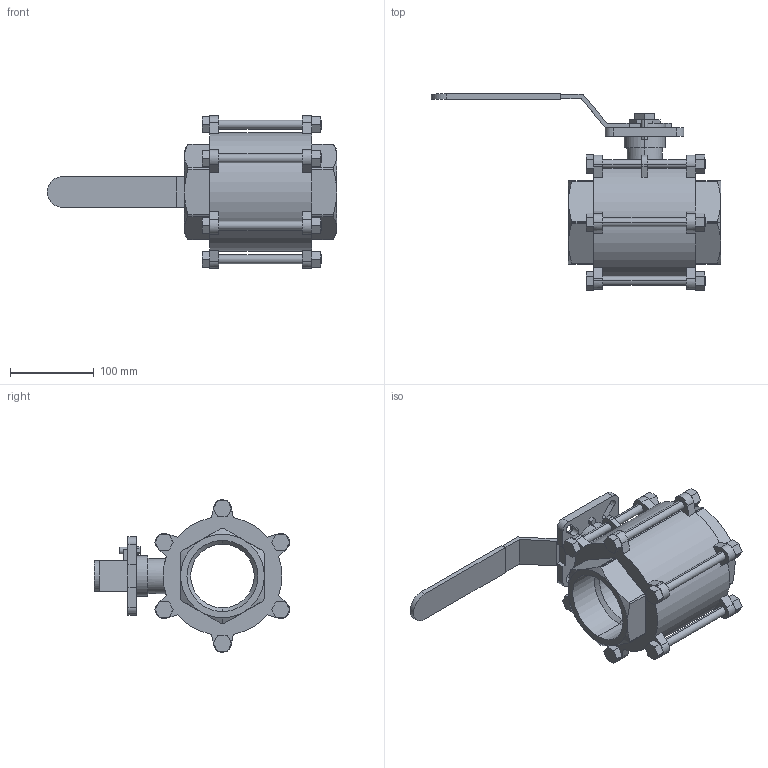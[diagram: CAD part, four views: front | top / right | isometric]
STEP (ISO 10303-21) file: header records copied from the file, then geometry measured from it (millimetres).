
FILE_DESCRIPTION (( 'STEP AP203' ), '1' );
FILE_NAME ('C3.622I080IFVPB0.STEP', '2018-10-12T14:37:07', ( '' ), ( '' ), 'SwSTEP 2.0', 'SolidWorks 2014', '' );
FILE_SCHEMA (( 'CONFIG_CONTROL_DESIGN' ));
Length unit declared in the file: millimetre
Products named in the file (1): C3.622I080IFVPB0
Bounding box: 346 x 234.18 x 182 mm (x, y, z)
Volume: 1879846.1 mm3; surface area: 232854.2 mm2
Topology: 1 solids, 1 shells, 413 faces, 1056 edges, 665 vertices
Faces by surface type: plane 300, cylinder 95, cone 18
Entity records: 12726 total; most frequent: CARTESIAN_POINT 2431, DIRECTION 2137, ORIENTED_EDGE 2112, EDGE_CURVE 1056, LINE 751, VECTOR 751, AXIS2_PLACEMENT_3D 693, VERTEX_POINT 665
